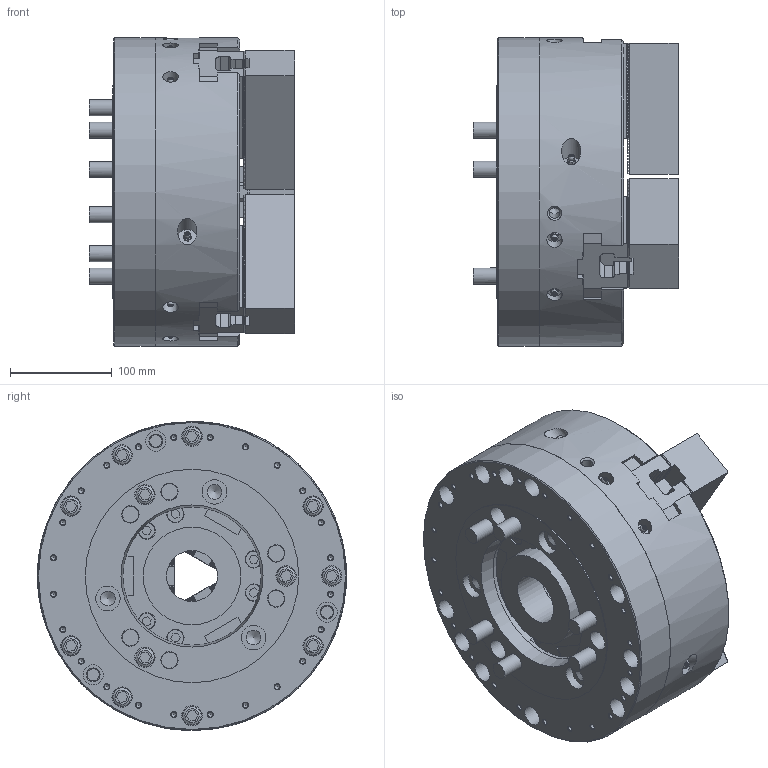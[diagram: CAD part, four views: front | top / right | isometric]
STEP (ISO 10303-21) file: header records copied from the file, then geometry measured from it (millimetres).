
FILE_DESCRIPTION (( 'STEP AP214' ), '1' );
FILE_NAME ('HOH-12K_OC.STEP', '2020-03-06T06:36:31', ( '' ), ( '' ), 'SwSTEP 2.0', 'SolidWorks 2017', '' );
FILE_SCHEMA (( 'AUTOMOTIVE_DESIGN' ));
Length unit declared in the file: millimetre
Products named in the file (18): 61P413885_TNUT; P32257_SOFT JAW_蹬怮椔; P32257_SOFT JAW; 俛傾僫僣僉 M14x4514x45; 61P413885_TNUT_蹬怮椔; HOH-12K_OC; Part2^61P211893_HOH-12K_ASSY1; 俛傾僫僣僉 M14x4514x45_B迸路 M14X4514X45; Part2^61P211893_HOH-12K_ASSY1_蹬怮椔
Assembly tree (13 placements, depth 2):
  61P413885_TNUT
  P32257_SOFT JAW
  俛傾僫僣僉 M14x4514x45
  俛傾僫僣僉 M14x4514x45
  HOH-12K_OC
    Part2^61P211893_HOH-12K_ASSY1_蹬怮椔
    61P413885_TNUT_蹬怮椔  x3
    P32257_SOFT JAW_蹬怮椔  x3
    俛傾僫僣僉 M14x4514x45_B迸路 M14X4514X45  x6
Bounding box: 202.2 x 304 x 304 mm (x, y, z)
Volume: 8977399.5 mm3; surface area: 634197.8 mm2
Topology: 13 solids, 19 shells, 4088 faces, 11681 edges, 7749 vertices
Faces by surface type: plane 3642, cylinder 292, cone 115, torus 21, sphere 18
Full cylindrical faces by diameter (mm): 1.9 x9, 5 x24, 10 x3, 10.5 x2, 11 x3, 12 x3, 12.5 x6, 14 x12, 15 x12, 16 x18, 17 x18, 18 x12, 19 x3, 20 x15, 21 x6, 22 x6, 24 x6, 24.2 x3, 25 x6, 50 x1, 78 x2, 83 x1, 83.66 x1, 89 x1, 96 x1, 136 x1, 210 x1, 304 x2
Entity records: 91545 total; most frequent: CARTESIAN_POINT 17978, ORIENTED_EDGE 15474, DIRECTION 14210, EDGE_CURVE 7737, LINE 6770, VECTOR 6770, VERTEX_POINT 5248, AXIS2_PLACEMENT_3D 3720
